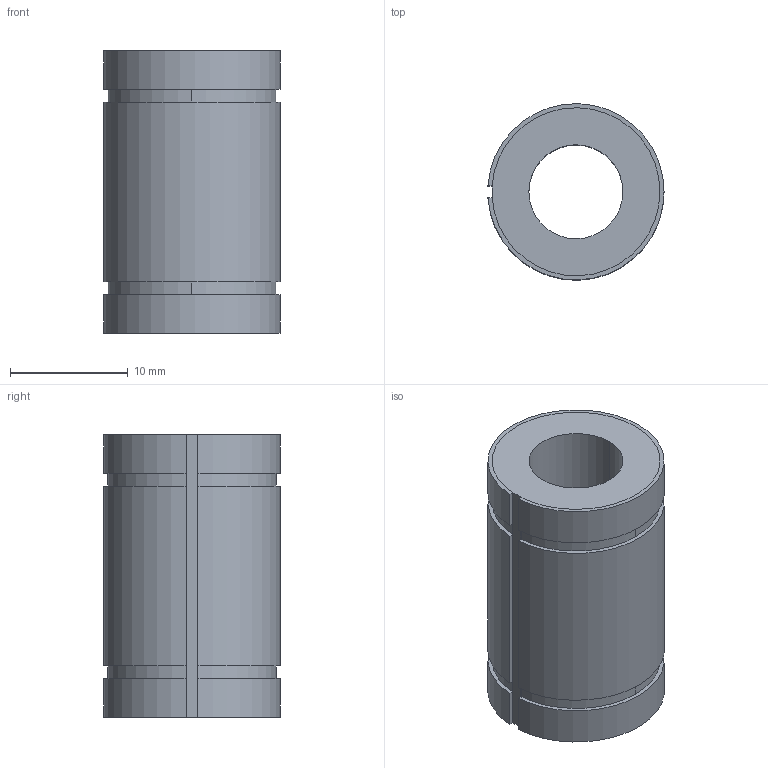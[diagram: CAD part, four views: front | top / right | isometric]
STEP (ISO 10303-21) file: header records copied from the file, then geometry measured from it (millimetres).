
FILE_DESCRIPTION((''),'2;1');
FILE_NAME('C:\Documents and Settings\ｿﾀﾀ蠑ｷ1\ｹﾙﾅﾁ ﾈｭｸ饅\ｺﾎﾇｰﾆﾄﾀﾏ\ﾁｦﾇｰ\LM__UUAJ\LM8UUAJ.stp','2005-06-14T16:22:54',('ｿﾀﾀ蠑ｷ1'),(''),'Autodesk Inventor 9','Autodesk Inventor 9','');
FILE_SCHEMA(('AUTOMOTIVE_DESIGN { 1 0 10303 214 1 1 1 1 }'));
Length unit declared in the file: millimetre
Products named in the file (1): LM__AJ
Bounding box: 14.98 x 14.99 x 24 mm (x, y, z)
Volume: 2990.6 mm3; surface area: 2061.3 mm2
Topology: 1 solids, 1 shells, 25 faces, 70 edges, 47 vertices
Faces by surface type: cylinder 14, plane 11
Entity records: 850 total; most frequent: DIRECTION 153, CARTESIAN_POINT 143, ORIENTED_EDGE 140, EDGE_CURVE 70, AXIS2_PLACEMENT_3D 57, VERTEX_POINT 47, VECTOR 39, LINE 39
